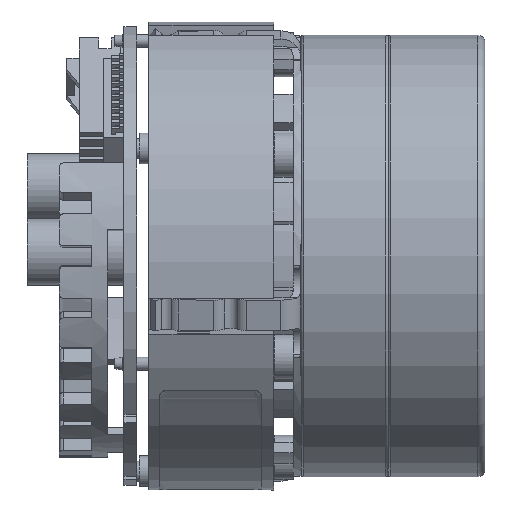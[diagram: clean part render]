
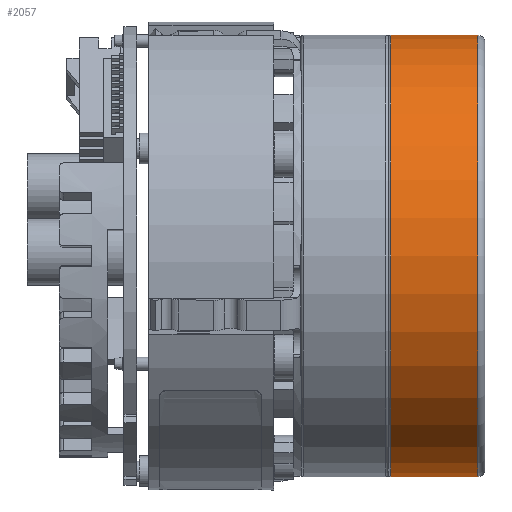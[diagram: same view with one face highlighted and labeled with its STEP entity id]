
A CAD part, front view. The second image highlights one B-rep face of the part: STEP entity #2057.
In plain terms, the highlighted cylindrical face has radius 27.4 mm (diameter 54.8 mm), a full revolution.
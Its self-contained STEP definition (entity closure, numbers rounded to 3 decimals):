
#156 = CYLINDRICAL_SURFACE ( 'NONE', #13740, 27.4 ) ;
#2057 = ADVANCED_FACE ( 'NONE', ( #12233, #43278 ), #156, .T. ) ;
#3187 = EDGE_LOOP ( 'NONE', ( #36332 ) ) ;
#6950 = CARTESIAN_POINT ( 'NONE',  ( 0.3, 0., -27.4 ) ) ;
#10299 = VERTEX_POINT ( 'NONE', #25932 ) ;
#12233 = FACE_OUTER_BOUND ( 'NONE', #19893, .T. ) ;
#12903 = DIRECTION ( 'NONE',  ( 1., 0., 0. ) ) ;
#13740 = AXIS2_PLACEMENT_3D ( 'NONE', #51516, #14994, #19107 ) ;
#14807 = EDGE_CURVE ( 'NONE', #10299, #10299, #35919, .T. ) ;
#14994 = DIRECTION ( 'NONE',  ( -1., 0., 0. ) ) ;
#17885 = DIRECTION ( 'NONE',  ( -1., 0., 0. ) ) ;
#19107 = DIRECTION ( 'NONE',  ( 0., 0., 1. ) ) ;
#19893 = EDGE_LOOP ( 'NONE', ( #25820 ) ) ;
#25820 = ORIENTED_EDGE ( 'NONE', *, *, #31329, .T. ) ;
#25932 = CARTESIAN_POINT ( 'NONE',  ( 11.1, 0., -27.4 ) ) ;
#31156 = VERTEX_POINT ( 'NONE', #6950 ) ;
#31329 = EDGE_CURVE ( 'NONE', #31156, #31156, #38725, .T. ) ;
#35919 = CIRCLE ( 'NONE', #45598, 27.4 ) ;
#36332 = ORIENTED_EDGE ( 'NONE', *, *, #14807, .T. ) ;
#37237 = CARTESIAN_POINT ( 'NONE',  ( 0.3, 0., 0. ) ) ;
#38725 = CIRCLE ( 'NONE', #40988, 27.4 ) ;
#40988 = AXIS2_PLACEMENT_3D ( 'NONE', #37237, #12903, #41259 ) ;
#41259 = DIRECTION ( 'NONE',  ( 0., 0., -1. ) ) ;
#42086 = CARTESIAN_POINT ( 'NONE',  ( 11.1, 0., 0. ) ) ;
#43278 = FACE_OUTER_BOUND ( 'NONE', #3187, .T. ) ;
#45598 = AXIS2_PLACEMENT_3D ( 'NONE', #42086, #17885, #46195 ) ;
#46195 = DIRECTION ( 'NONE',  ( 0., 0., -1. ) ) ;
#51516 = CARTESIAN_POINT ( 'NONE',  ( 12., 0., 0. ) ) ;
